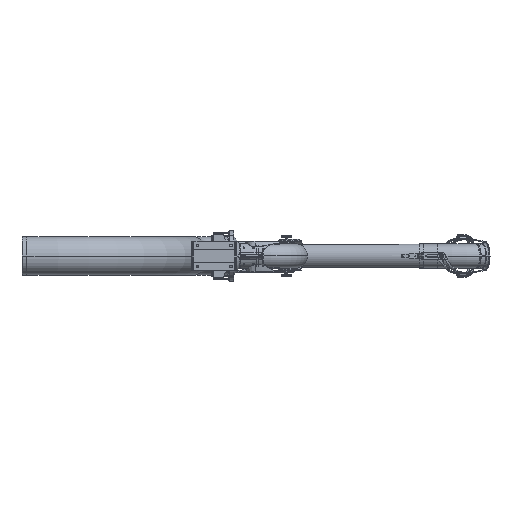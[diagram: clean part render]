
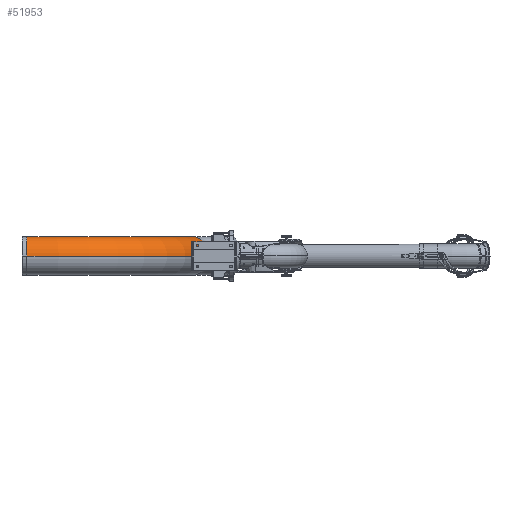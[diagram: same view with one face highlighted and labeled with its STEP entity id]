
A CAD part, left-side view. The second image highlights one B-rep face of the part: STEP entity #51953.
In plain terms, the highlighted toroidal (fillet/blend) face has major radius 848.528 mm and minor radius 100.25 mm.
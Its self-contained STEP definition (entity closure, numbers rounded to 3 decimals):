
#51675=CARTESIAN_POINT('',(0.,848.528,-848.528));
#51676=DIRECTION('',(0.,0.,-1.));
#51677=DIRECTION('',(0.,-1.,0.));
#51678=AXIS2_PLACEMENT_3D('',#51675,#51676,#51677);
#51690=CARTESIAN_POINT('',(0.,0.,0.));
#51691=DIRECTION('',(0.,1.,0.));
#51692=DIRECTION('',(0.,0.,-1.));
#51693=AXIS2_PLACEMENT_3D('',#51690,#51691,#51692);
#51698=CARTESIAN_POINT('',(0.,0.,-848.528));
#51699=DIRECTION('',(-1.,0.,0.));
#51700=DIRECTION('',(0.,0.,1.));
#51701=AXIS2_PLACEMENT_3D('',#51698,#51699,#51700);
#51760=CARTESIAN_POINT('',(0.,0.,-848.528));
#51761=DIRECTION('',(-1.,0.,0.));
#51762=DIRECTION('',(0.,0.,1.));
#51763=AXIS2_PLACEMENT_3D('',#51760,#51761,#51762);
#51895=CARTESIAN_POINT('',(0.,0.,100.25));
#51896=CARTESIAN_POINT('',(0.,0.,-100.25));
#51897=VERTEX_POINT('',#51895);
#51898=VERTEX_POINT('',#51896);
#51899=CARTESIAN_POINT('',(0.,948.778,-848.528));
#51900=CARTESIAN_POINT('',(0.,748.278,
-848.528));
#51901=VERTEX_POINT('',#51899);
#51902=VERTEX_POINT('',#51900);
#51939=CARTESIAN_POINT('',(0.,0.,-848.528));
#51940=DIRECTION('',(-1.,0.,0.));
#51941=DIRECTION('',(0.,0.,-1.));
#51942=AXIS2_PLACEMENT_3D('',#51939,#51940,#51941);
#51943=TOROIDAL_SURFACE('',#51942,848.528,100.25);
#51945=ORIENTED_EDGE('',*,*,#51944,.F.);
#51947=ORIENTED_EDGE('',*,*,#51946,.T.);
#51948=ORIENTED_EDGE('',*,*,#51928,.T.);
#51950=ORIENTED_EDGE('',*,*,#51949,.F.);
#51951=EDGE_LOOP('',(#51945,#51947,#51948,#51950));
#51952=FACE_OUTER_BOUND('',#51951,.F.);
#51679=CIRCLE('',#51678,100.25);
#51694=CIRCLE('',#51693,100.25);
#51702=CIRCLE('',#51701,748.278);
#51764=CIRCLE('',#51763,948.778);
#51928=EDGE_CURVE('',#51902,#51901,#51679,.T.);
#51944=EDGE_CURVE('',#51898,#51897,#51694,.T.);
#51946=EDGE_CURVE('',#51898,#51902,#51702,.T.);
#51949=EDGE_CURVE('',#51897,#51901,#51764,.T.);
#51953=ADVANCED_FACE('',(#51952),#51943,.T.);
